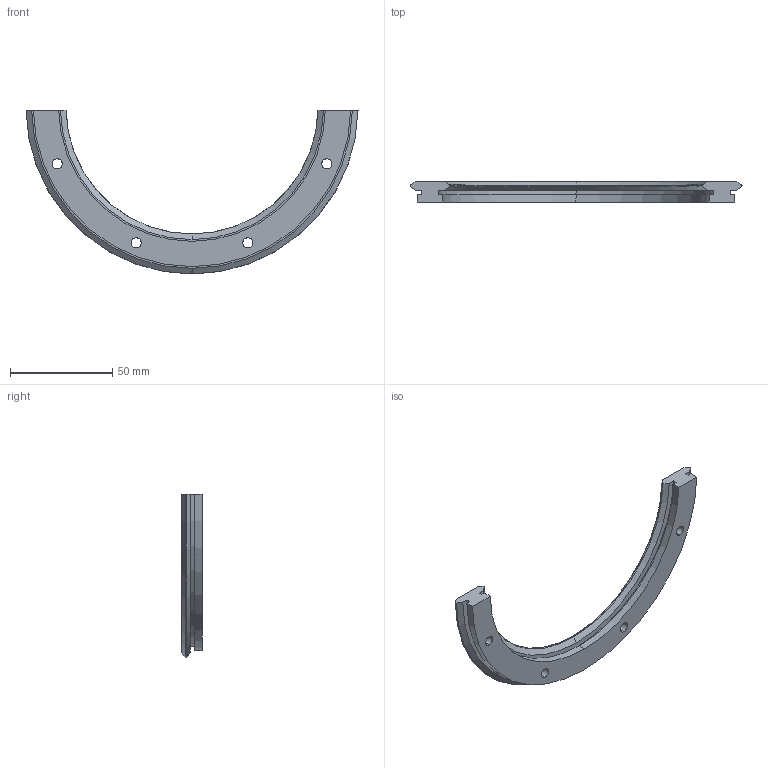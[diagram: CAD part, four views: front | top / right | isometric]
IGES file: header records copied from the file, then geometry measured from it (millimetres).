
Start section: 3D InterOp IGES (v. 2020 1.0.1), Spatial Corp. Copyright (c) 1999-2017.
Global section: file name: r20_143_r180.igs; native system: Spatial Corp.; preprocessor: 3D InterOp ACIS/IGES; author: TraceParts; organization: TraceParts S.A.; date: 20220624.023653; units: millimetre
Bounding box: 162.61 x 10 x 80.31 mm (x, y, z)
Surface area: 14690.7 mm2 (no closed solid volume)
Topology: 0 solids, 0 shells, 52 faces, 264 edges, 264 vertices
Faces by surface type: revolution 40, extrusion 12
